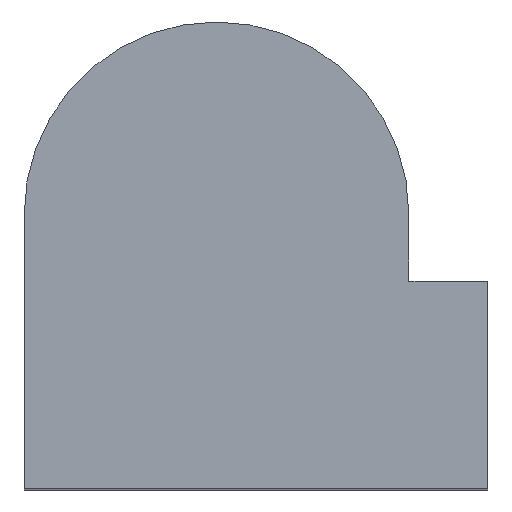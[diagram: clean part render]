
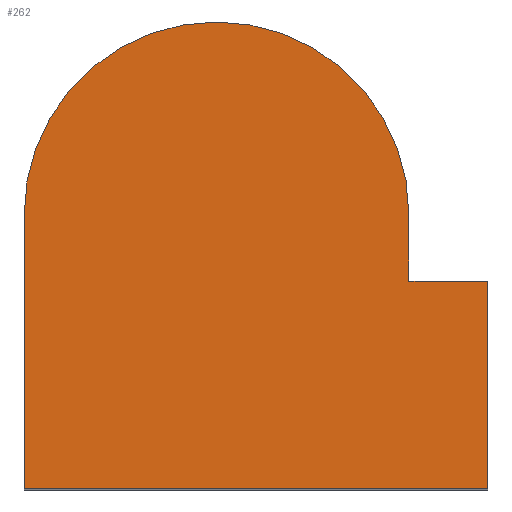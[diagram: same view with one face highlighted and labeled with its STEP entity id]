
A CAD part, top view. The second image highlights one B-rep face of the part: STEP entity #262.
In plain terms, the highlighted planar face has unit normal (0, 0, 1).
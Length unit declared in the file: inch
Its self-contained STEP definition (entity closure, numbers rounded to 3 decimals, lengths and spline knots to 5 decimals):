
#6 = EDGE_CURVE ( 'NONE', #280, #103, #43, .T. ) ;
#8 = LINE ( 'NONE', #264, #275 ) ;
#12 = CARTESIAN_POINT ( 'NONE',  ( 0., 0.365, 0. ) ) ;
#16 = ORIENTED_EDGE ( 'NONE', *, *, #6, .T. ) ;
#29 = CARTESIAN_POINT ( 'NONE',  ( 0.617, 0., 0. ) ) ;
#34 = DIRECTION ( 'NONE',  ( -1., 0., 0. ) ) ;
#36 = ORIENTED_EDGE ( 'NONE', *, *, #269, .T. ) ;
#40 = DIRECTION ( 'NONE',  ( 0., 0., -1. ) ) ;
#41 = AXIS2_PLACEMENT_3D ( 'NONE', #228, #40, #34 ) ;
#43 = LINE ( 'NONE', #205, #78 ) ;
#54 = CARTESIAN_POINT ( 'NONE',  ( 0.256, 0.365, 0. ) ) ;
#59 = EDGE_CURVE ( 'NONE', #103, #105, #187, .T. ) ;
#60 = ORIENTED_EDGE ( 'NONE', *, *, #302, .T. ) ;
#67 = VECTOR ( 'NONE', #273, 39.37008 ) ;
#69 = CARTESIAN_POINT ( 'NONE',  ( 0.617, 0., 0. ) ) ;
#78 = VECTOR ( 'NONE', #88, 39.37008 ) ;
#83 = DIRECTION ( 'NONE',  ( -1., 0., 0. ) ) ;
#88 = DIRECTION ( 'NONE',  ( 1., 0., 0. ) ) ;
#95 = CIRCLE ( 'NONE', #300, 0.256 ) ;
#97 = DIRECTION ( 'NONE',  ( -1., 0., 0. ) ) ;
#103 = VERTEX_POINT ( 'NONE', #29 ) ;
#105 = VERTEX_POINT ( 'NONE', #194 ) ;
#106 = ORIENTED_EDGE ( 'NONE', *, *, #122, .T. ) ;
#115 = EDGE_LOOP ( 'NONE', ( #16, #147, #60, #36, #106, #138 ) ) ;
#122 = EDGE_CURVE ( 'NONE', #149, #284, #95, .T. ) ;
#133 = EDGE_CURVE ( 'NONE', #284, #280, #8, .T. ) ;
#138 = ORIENTED_EDGE ( 'NONE', *, *, #133, .T. ) ;
#147 = ORIENTED_EDGE ( 'NONE', *, *, #59, .T. ) ;
#149 = VERTEX_POINT ( 'NONE', #239 ) ;
#152 = CARTESIAN_POINT ( 'NONE',  ( 0., 0., 0. ) ) ;
#162 = DIRECTION ( 'NONE',  ( 0., 1., 0. ) ) ;
#167 = VECTOR ( 'NONE', #83, 39.37008 ) ;
#172 = PLANE ( 'NONE',  #41 ) ;
#187 = LINE ( 'NONE', #69, #235 ) ;
#194 = CARTESIAN_POINT ( 'NONE',  ( 0.617, 0.276, 0. ) ) ;
#196 = FACE_OUTER_BOUND ( 'NONE', #115, .T. ) ;
#198 = LINE ( 'NONE', #295, #167 ) ;
#205 = CARTESIAN_POINT ( 'NONE',  ( 0., 0., 0. ) ) ;
#218 = DIRECTION ( 'NONE',  ( 0., -1., 0. ) ) ;
#222 = LINE ( 'NONE', #271, #67 ) ;
#228 = CARTESIAN_POINT ( 'NONE',  ( 0.256, 0.365, 0. ) ) ;
#235 = VECTOR ( 'NONE', #162, 39.37008 ) ;
#239 = CARTESIAN_POINT ( 'NONE',  ( 0.512, 0.365, 0. ) ) ;
#244 = VERTEX_POINT ( 'NONE', #297 ) ;
#262 = ADVANCED_FACE ( 'NONE', ( #196 ), #172, .F. ) ;
#264 = CARTESIAN_POINT ( 'NONE',  ( 0., 0., 0. ) ) ;
#266 = DIRECTION ( 'NONE',  ( 0., 0., 1. ) ) ;
#269 = EDGE_CURVE ( 'NONE', #244, #149, #222, .T. ) ;
#271 = CARTESIAN_POINT ( 'NONE',  ( 0.512, 0.276, 0. ) ) ;
#273 = DIRECTION ( 'NONE',  ( 0., 1., 0. ) ) ;
#275 = VECTOR ( 'NONE', #218, 39.37008 ) ;
#280 = VERTEX_POINT ( 'NONE', #152 ) ;
#284 = VERTEX_POINT ( 'NONE', #12 ) ;
#295 = CARTESIAN_POINT ( 'NONE',  ( 0.617, 0.276, 0. ) ) ;
#297 = CARTESIAN_POINT ( 'NONE',  ( 0.512, 0.276, 0. ) ) ;
#300 = AXIS2_PLACEMENT_3D ( 'NONE', #54, #266, #97 ) ;
#302 = EDGE_CURVE ( 'NONE', #105, #244, #198, .T. ) ;
